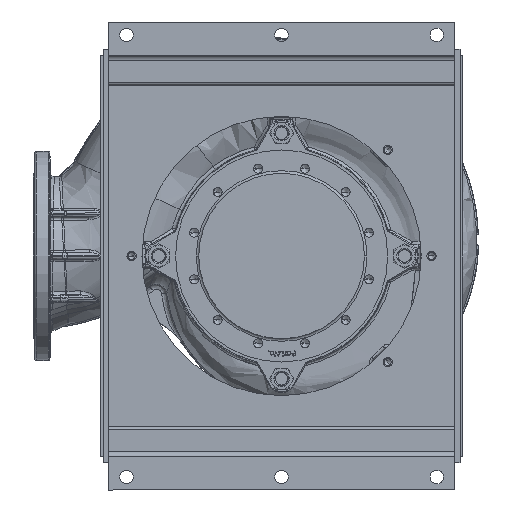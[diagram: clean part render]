
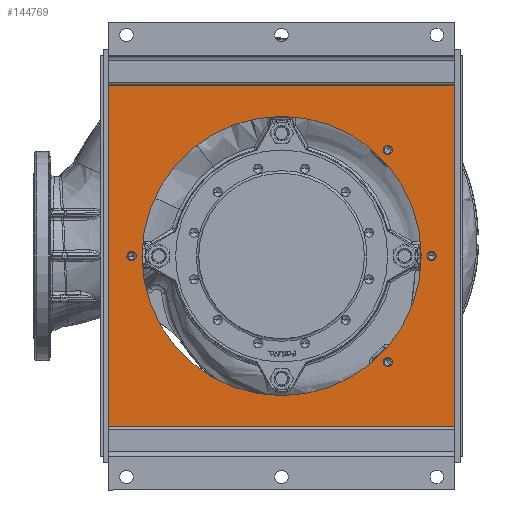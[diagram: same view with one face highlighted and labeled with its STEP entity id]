
A CAD part, front view. The second image highlights one B-rep face of the part: STEP entity #144769.
In plain terms, the highlighted planar face has unit normal (0, -1, 0).
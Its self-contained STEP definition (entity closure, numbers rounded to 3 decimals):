
#795 = DIRECTION ( 'NONE',  ( -1., 0., 0. ) ) ;
#950 = ORIENTED_EDGE ( 'NONE', *, *, #167116, .T. ) ;
#3888 = PLANE ( 'NONE',  #28058 ) ;
#4357 = ORIENTED_EDGE ( 'NONE', *, *, #126447, .T. ) ;
#8455 = CIRCLE ( 'NONE', #77563, 9. ) ;
#11108 = AXIS2_PLACEMENT_3D ( 'NONE', #33050, #132424, #47420 ) ;
#11865 = CARTESIAN_POINT ( 'NONE',  ( -335., -559.5, 400. ) ) ;
#13904 = CARTESIAN_POINT ( 'NONE',  ( -299., -559.5, 0. ) ) ;
#14340 = CARTESIAN_POINT ( 'NONE',  ( 0., -559.5, 0. ) ) ;
#14933 = CARTESIAN_POINT ( 'NONE',  ( -281., -559.5, 0. ) ) ;
#16066 = EDGE_CURVE ( 'NONE', #21491, #38090, #114127, .T. ) ;
#16087 = DIRECTION ( 'NONE',  ( 0., 1., 0. ) ) ;
#16225 = ORIENTED_EDGE ( 'NONE', *, *, #147006, .T. ) ;
#19443 = EDGE_LOOP ( 'NONE', ( #16225, #20906 ) ) ;
#20906 = ORIENTED_EDGE ( 'NONE', *, *, #77849, .T. ) ;
#20947 = ORIENTED_EDGE ( 'NONE', *, *, #131487, .T. ) ;
#21456 = CARTESIAN_POINT ( 'NONE',  ( 205.061, -559.5, 205.061 ) ) ;
#21491 = VERTEX_POINT ( 'NONE', #180464 ) ;
#22000 = EDGE_LOOP ( 'NONE', ( #133718, #134820 ) ) ;
#23788 = CARTESIAN_POINT ( 'NONE',  ( 214.061, -559.5, -205.061 ) ) ;
#24171 = FACE_BOUND ( 'NONE', #19443, .T. ) ;
#25326 = DIRECTION ( 'NONE',  ( 0., 1., 0. ) ) ;
#26470 = CARTESIAN_POINT ( 'NONE',  ( 196.061, -559.5, 205.061 ) ) ;
#28058 = AXIS2_PLACEMENT_3D ( 'NONE', #118172, #33044, #132420 ) ;
#28663 = DIRECTION ( 'NONE',  ( -1., 0., 0. ) ) ;
#28720 = CIRCLE ( 'NONE', #153029, 9. ) ;
#31826 = EDGE_LOOP ( 'NONE', ( #20947, #105114 ) ) ;
#33044 = DIRECTION ( 'NONE',  ( 0., 1., 0. ) ) ;
#33050 = CARTESIAN_POINT ( 'NONE',  ( -290., -559.5, 0. ) ) ;
#34651 = ORIENTED_EDGE ( 'NONE', *, *, #16066, .T. ) ;
#34851 = CIRCLE ( 'NONE', #11108, 9. ) ;
#35777 = DIRECTION ( 'NONE',  ( -1., 0., 0. ) ) ;
#38090 = VERTEX_POINT ( 'NONE', #42752 ) ;
#38457 = LINE ( 'NONE', #51108, #71752 ) ;
#41184 = VERTEX_POINT ( 'NONE', #23788 ) ;
#41305 = EDGE_LOOP ( 'NONE', ( #950, #4357 ) ) ;
#41390 = CIRCLE ( 'NONE', #86474, 9. ) ;
#42752 = CARTESIAN_POINT ( 'NONE',  ( -270., -559.5, 0. ) ) ;
#46699 = VERTEX_POINT ( 'NONE', #149764 ) ;
#47344 = LINE ( 'NONE', #177448, #118403 ) ;
#47420 = DIRECTION ( 'NONE',  ( -1., 0., 0. ) ) ;
#47469 = DIRECTION ( 'NONE',  ( 0., 1., 0. ) ) ;
#48651 = ORIENTED_EDGE ( 'NONE', *, *, #183922, .T. ) ;
#48761 = DIRECTION ( 'NONE',  ( 0., 1., 0. ) ) ;
#51108 = CARTESIAN_POINT ( 'NONE',  ( 335., -559.5, 400. ) ) ;
#54404 = VERTEX_POINT ( 'NONE', #140476 ) ;
#55946 = CARTESIAN_POINT ( 'NONE',  ( 205.061, -559.5, -205.061 ) ) ;
#57613 = FACE_OUTER_BOUND ( 'NONE', #102764, .T. ) ;
#62008 = FACE_BOUND ( 'NONE', #31826, .T. ) ;
#62014 = ORIENTED_EDGE ( 'NONE', *, *, #71877, .F. ) ;
#63868 = VERTEX_POINT ( 'NONE', #14933 ) ;
#64452 = DIRECTION ( 'NONE',  ( 1., 0., 0. ) ) ;
#67615 = VERTEX_POINT ( 'NONE', #69204 ) ;
#69204 = CARTESIAN_POINT ( 'NONE',  ( 335., -559.5, -330.5 ) ) ;
#70144 = DIRECTION ( 'NONE',  ( -1., 0., 0. ) ) ;
#71752 = VECTOR ( 'NONE', #136099, 1000. ) ;
#71877 = EDGE_CURVE ( 'NONE', #46699, #148940, #169182, .T. ) ;
#77563 = AXIS2_PLACEMENT_3D ( 'NONE', #55946, #155252, #70144 ) ;
#77833 = ORIENTED_EDGE ( 'NONE', *, *, #80585, .T. ) ;
#77849 = EDGE_CURVE ( 'NONE', #41184, #137251, #116029, .T. ) ;
#80261 = EDGE_LOOP ( 'NONE', ( #34651, #48651 ) ) ;
#80585 = EDGE_CURVE ( 'NONE', #46699, #67615, #47344, .T. ) ;
#81456 = AXIS2_PLACEMENT_3D ( 'NONE', #14340, #113823, #28663 ) ;
#82170 = LINE ( 'NONE', #154944, #153248 ) ;
#82780 = DIRECTION ( 'NONE',  ( 0., 1., 0. ) ) ;
#84058 = CARTESIAN_POINT ( 'NONE',  ( -335., -559.5, 330.5 ) ) ;
#85961 = DIRECTION ( 'NONE',  ( 0., 1., 0. ) ) ;
#86474 = AXIS2_PLACEMENT_3D ( 'NONE', #167758, #82780, #182016 ) ;
#86820 = CARTESIAN_POINT ( 'NONE',  ( 214.061, -559.5, 205.061 ) ) ;
#87787 = CARTESIAN_POINT ( 'NONE',  ( 196.061, -559.5, -205.061 ) ) ;
#89232 = VERTEX_POINT ( 'NONE', #138093 ) ;
#93542 = ORIENTED_EDGE ( 'NONE', *, *, #107302, .T. ) ;
#93721 = VECTOR ( 'NONE', #125620, 1000. ) ;
#94260 = CIRCLE ( 'NONE', #138941, 9. ) ;
#94978 = CARTESIAN_POINT ( 'NONE',  ( 335., -559.5, 330.5 ) ) ;
#97162 = VERTEX_POINT ( 'NONE', #94978 ) ;
#99810 = FACE_BOUND ( 'NONE', #80261, .T. ) ;
#101286 = CARTESIAN_POINT ( 'NONE',  ( 205.061, -559.5, -205.061 ) ) ;
#102749 = CIRCLE ( 'NONE', #81456, 270. ) ;
#102764 = EDGE_LOOP ( 'NONE', ( #62014, #77833, #93542, #108730 ) ) ;
#105114 = ORIENTED_EDGE ( 'NONE', *, *, #106841, .T. ) ;
#106752 = VERTEX_POINT ( 'NONE', #13904 ) ;
#106841 = EDGE_CURVE ( 'NONE', #183186, #147331, #94260, .T. ) ;
#107302 = EDGE_CURVE ( 'NONE', #67615, #97162, #38457, .T. ) ;
#108730 = ORIENTED_EDGE ( 'NONE', *, *, #144497, .F. ) ;
#110506 = CARTESIAN_POINT ( 'NONE',  ( 290., -559.5, 0. ) ) ;
#113823 = DIRECTION ( 'NONE',  ( 0., 1., 0. ) ) ;
#114127 = CIRCLE ( 'NONE', #152390, 270. ) ;
#115542 = DIRECTION ( 'NONE',  ( -1., 0., 0. ) ) ;
#116029 = CIRCLE ( 'NONE', #182782, 9. ) ;
#118172 = CARTESIAN_POINT ( 'NONE',  ( 350., -559.5, -387.5 ) ) ;
#118403 = VECTOR ( 'NONE', #64452, 1000. ) ;
#120884 = DIRECTION ( 'NONE',  ( 0., 1., 0. ) ) ;
#124780 = DIRECTION ( 'NONE',  ( -1., 0., 0. ) ) ;
#125620 = DIRECTION ( 'NONE',  ( 0., 0., 1. ) ) ;
#126447 = EDGE_CURVE ( 'NONE', #89232, #54404, #41390, .T. ) ;
#131487 = EDGE_CURVE ( 'NONE', #147331, #183186, #182572, .T. ) ;
#132420 = DIRECTION ( 'NONE',  ( -1., 0., 0. ) ) ;
#132424 = DIRECTION ( 'NONE',  ( 0., 1., 0. ) ) ;
#132471 = CARTESIAN_POINT ( 'NONE',  ( 205.061, -559.5, 205.061 ) ) ;
#133718 = ORIENTED_EDGE ( 'NONE', *, *, #161388, .T. ) ;
#133753 = CARTESIAN_POINT ( 'NONE',  ( -290., -559.5, 0. ) ) ;
#134820 = ORIENTED_EDGE ( 'NONE', *, *, #167918, .T. ) ;
#136099 = DIRECTION ( 'NONE',  ( 0., 0., 1. ) ) ;
#137251 = VERTEX_POINT ( 'NONE', #87787 ) ;
#137532 = FACE_BOUND ( 'NONE', #22000, .T. ) ;
#138093 = CARTESIAN_POINT ( 'NONE',  ( 299., -559.5, 0. ) ) ;
#138941 = AXIS2_PLACEMENT_3D ( 'NONE', #132471, #47469, #146794 ) ;
#140476 = CARTESIAN_POINT ( 'NONE',  ( 281., -559.5, 0. ) ) ;
#143296 = AXIS2_PLACEMENT_3D ( 'NONE', #21456, #120884, #35777 ) ;
#144497 = EDGE_CURVE ( 'NONE', #148940, #97162, #82170, .T. ) ;
#144769 = ADVANCED_FACE ( 'NONE', ( #62008, #137532, #170853, #24171, #99810, #57613 ), #3888, .F. ) ;
#146794 = DIRECTION ( 'NONE',  ( -1., 0., 0. ) ) ;
#147006 = EDGE_CURVE ( 'NONE', #137251, #41184, #8455, .T. ) ;
#147331 = VERTEX_POINT ( 'NONE', #26470 ) ;
#148096 = DIRECTION ( 'NONE',  ( -1., 0., 0. ) ) ;
#148940 = VERTEX_POINT ( 'NONE', #84058 ) ;
#149764 = CARTESIAN_POINT ( 'NONE',  ( -335., -559.5, -330.5 ) ) ;
#152390 = AXIS2_PLACEMENT_3D ( 'NONE', #170980, #85961, #795 ) ;
#153029 = AXIS2_PLACEMENT_3D ( 'NONE', #133753, #48761, #148096 ) ;
#153248 = VECTOR ( 'NONE', #184013, 1000. ) ;
#154944 = CARTESIAN_POINT ( 'NONE',  ( -335., -559.5, 330.5 ) ) ;
#155252 = DIRECTION ( 'NONE',  ( 0., 1., 0. ) ) ;
#161388 = EDGE_CURVE ( 'NONE', #106752, #63868, #28720, .T. ) ;
#167116 = EDGE_CURVE ( 'NONE', #54404, #89232, #184121, .T. ) ;
#167758 = CARTESIAN_POINT ( 'NONE',  ( 290., -559.5, 0. ) ) ;
#167918 = EDGE_CURVE ( 'NONE', #63868, #106752, #34851, .T. ) ;
#169182 = LINE ( 'NONE', #11865, #93721 ) ;
#170853 = FACE_BOUND ( 'NONE', #41305, .T. ) ;
#170980 = CARTESIAN_POINT ( 'NONE',  ( 0., -559.5, 0. ) ) ;
#175209 = AXIS2_PLACEMENT_3D ( 'NONE', #110506, #25326, #124780 ) ;
#177448 = CARTESIAN_POINT ( 'NONE',  ( -335., -559.5, -330.5 ) ) ;
#180464 = CARTESIAN_POINT ( 'NONE',  ( 270., -559.5, 0. ) ) ;
#182016 = DIRECTION ( 'NONE',  ( -1., 0., 0. ) ) ;
#182572 = CIRCLE ( 'NONE', #143296, 9. ) ;
#182782 = AXIS2_PLACEMENT_3D ( 'NONE', #101286, #16087, #115542 ) ;
#183186 = VERTEX_POINT ( 'NONE', #86820 ) ;
#183922 = EDGE_CURVE ( 'NONE', #38090, #21491, #102749, .T. ) ;
#184013 = DIRECTION ( 'NONE',  ( 1., 0., 0. ) ) ;
#184121 = CIRCLE ( 'NONE', #175209, 9. ) ;
